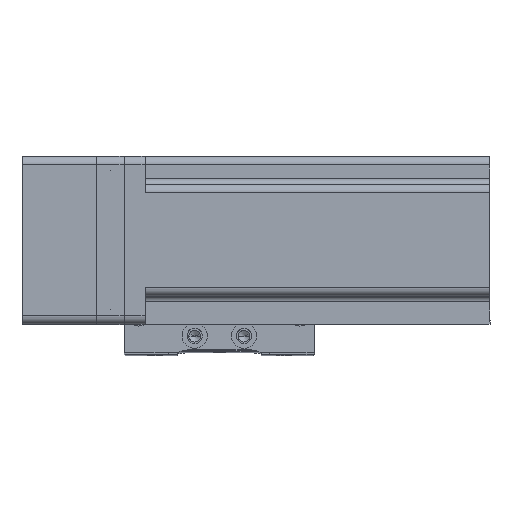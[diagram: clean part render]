
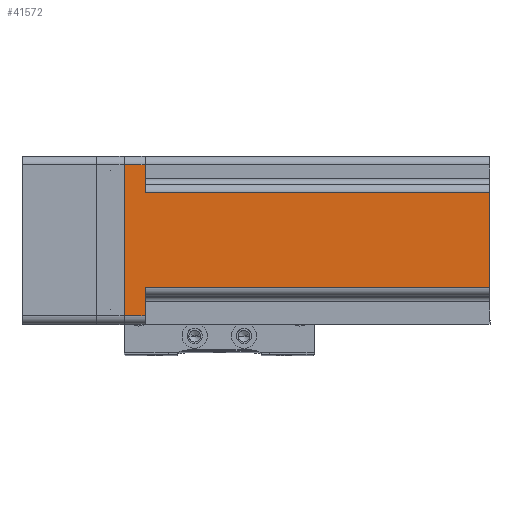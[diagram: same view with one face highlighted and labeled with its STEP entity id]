
A CAD part, top view. The second image highlights one B-rep face of the part: STEP entity #41572.
In plain terms, the highlighted planar face has unit normal (0, 0, 1) as drawn and (0, 1, 0) by its records, which use the part's own axes.
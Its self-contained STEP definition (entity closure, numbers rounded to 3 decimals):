
#486 = CARTESIAN_POINT ( 'NONE',  ( 17., 30., 7.5 ) ) ;
#1551 = CARTESIAN_POINT ( 'NONE',  ( 27., 30., 0. ) ) ;
#1611 = LINE ( 'NONE', #34973, #19131 ) ;
#1949 = CARTESIAN_POINT ( 'NONE',  ( -27., 30., 130.7 ) ) ;
#2792 = CARTESIAN_POINT ( 'NONE',  ( 17., 30., 130.7 ) ) ;
#2866 = ORIENTED_EDGE ( 'NONE', *, *, #8504, .T. ) ;
#3051 = VERTEX_POINT ( 'NONE', #486 ) ;
#3275 = CARTESIAN_POINT ( 'NONE',  ( 17., 30., 130.7 ) ) ;
#3451 = CARTESIAN_POINT ( 'NONE',  ( 30., 30., 130.7 ) ) ;
#3456 = DIRECTION ( 'NONE',  ( -1., 0., 0. ) ) ;
#3533 = VERTEX_POINT ( 'NONE', #2792 ) ;
#5466 = DIRECTION ( 'NONE',  ( 0., 0., 1. ) ) ;
#6194 = VERTEX_POINT ( 'NONE', #37279 ) ;
#6293 = EDGE_CURVE ( 'NONE', #14171, #41509, #34944, .T. ) ;
#6347 = CARTESIAN_POINT ( 'NONE',  ( -17., 30., 130.7 ) ) ;
#6713 = EDGE_CURVE ( 'NONE', #13167, #34099, #27288, .T. ) ;
#6924 = DIRECTION ( 'NONE',  ( 1., 0., 0. ) ) ;
#7583 = DIRECTION ( 'NONE',  ( 1., 0., 0. ) ) ;
#7890 = ORIENTED_EDGE ( 'NONE', *, *, #11916, .T. ) ;
#8504 = EDGE_CURVE ( 'NONE', #6194, #15708, #19827, .T. ) ;
#9100 = EDGE_LOOP ( 'NONE', ( #27470, #10692, #20870, #26604, #41226, #43342, #7890, #2866 ) ) ;
#10692 = ORIENTED_EDGE ( 'NONE', *, *, #6293, .T. ) ;
#11910 = CARTESIAN_POINT ( 'NONE',  ( 30., 30., 0. ) ) ;
#11916 = EDGE_CURVE ( 'NONE', #34099, #6194, #43429, .T. ) ;
#12064 = DIRECTION ( 'NONE',  ( -1., 0., 0. ) ) ;
#12417 = VECTOR ( 'NONE', #32381, 1000. ) ;
#13167 = VERTEX_POINT ( 'NONE', #30172 ) ;
#13254 = CARTESIAN_POINT ( 'NONE',  ( -27., 30., 7.5 ) ) ;
#14171 = VERTEX_POINT ( 'NONE', #16045 ) ;
#15708 = VERTEX_POINT ( 'NONE', #13254 ) ;
#16045 = CARTESIAN_POINT ( 'NONE',  ( -17., 30., 7.5 ) ) ;
#16048 = DIRECTION ( 'NONE',  ( 0., 0., -1. ) ) ;
#16862 = DIRECTION ( 'NONE',  ( 0., 0., 1. ) ) ;
#18217 = LINE ( 'NONE', #28574, #36874 ) ;
#18393 = EDGE_CURVE ( 'NONE', #3533, #41509, #1611, .T. ) ;
#18499 = VECTOR ( 'NONE', #16862, 1000. ) ;
#19131 = VECTOR ( 'NONE', #3456, 1000. ) ;
#19827 = LINE ( 'NONE', #1949, #37384 ) ;
#20870 = ORIENTED_EDGE ( 'NONE', *, *, #18393, .F. ) ;
#21626 = CARTESIAN_POINT ( 'NONE',  ( 20., 30., 7.5 ) ) ;
#22984 = EDGE_CURVE ( 'NONE', #3533, #3051, #41706, .T. ) ;
#23098 = VECTOR ( 'NONE', #38154, 1000. ) ;
#24925 = AXIS2_PLACEMENT_3D ( 'NONE', #3451, #27927, #6924 ) ;
#26519 = CARTESIAN_POINT ( 'NONE',  ( 27., 30., 130.7 ) ) ;
#26604 = ORIENTED_EDGE ( 'NONE', *, *, #22984, .T. ) ;
#27110 = EDGE_CURVE ( 'NONE', #13167, #3051, #31066, .T. ) ;
#27288 = LINE ( 'NONE', #26519, #43698 ) ;
#27470 = ORIENTED_EDGE ( 'NONE', *, *, #35660, .T. ) ;
#27927 = DIRECTION ( 'NONE',  ( 0., -1., 0. ) ) ;
#28574 = CARTESIAN_POINT ( 'NONE',  ( -20., 30., 7.5 ) ) ;
#30172 = CARTESIAN_POINT ( 'NONE',  ( 27., 30., 7.5 ) ) ;
#30217 = FACE_OUTER_BOUND ( 'NONE', #9100, .T. ) ;
#31066 = LINE ( 'NONE', #21626, #12417 ) ;
#32381 = DIRECTION ( 'NONE',  ( -1., 0., 0. ) ) ;
#34099 = VERTEX_POINT ( 'NONE', #1551 ) ;
#34827 = PLANE ( 'NONE',  #24925 ) ;
#34944 = LINE ( 'NONE', #37880, #18499 ) ;
#34973 = CARTESIAN_POINT ( 'NONE',  ( 30., 30., 130.7 ) ) ;
#35660 = EDGE_CURVE ( 'NONE', #15708, #14171, #18217, .T. ) ;
#36874 = VECTOR ( 'NONE', #7583, 1000. ) ;
#37279 = CARTESIAN_POINT ( 'NONE',  ( -27., 30., 0. ) ) ;
#37384 = VECTOR ( 'NONE', #5466, 1000. ) ;
#37880 = CARTESIAN_POINT ( 'NONE',  ( -17., 30., 130.7 ) ) ;
#38154 = DIRECTION ( 'NONE',  ( 0., 0., -1. ) ) ;
#41226 = ORIENTED_EDGE ( 'NONE', *, *, #27110, .F. ) ;
#41509 = VERTEX_POINT ( 'NONE', #6347 ) ;
#41572 = ADVANCED_FACE ( 'NONE', ( #30217 ), #34827, .F. ) ;
#41706 = LINE ( 'NONE', #3275, #23098 ) ;
#42297 = VECTOR ( 'NONE', #12064, 1000. ) ;
#43342 = ORIENTED_EDGE ( 'NONE', *, *, #6713, .T. ) ;
#43429 = LINE ( 'NONE', #11910, #42297 ) ;
#43698 = VECTOR ( 'NONE', #16048, 1000. ) ;
